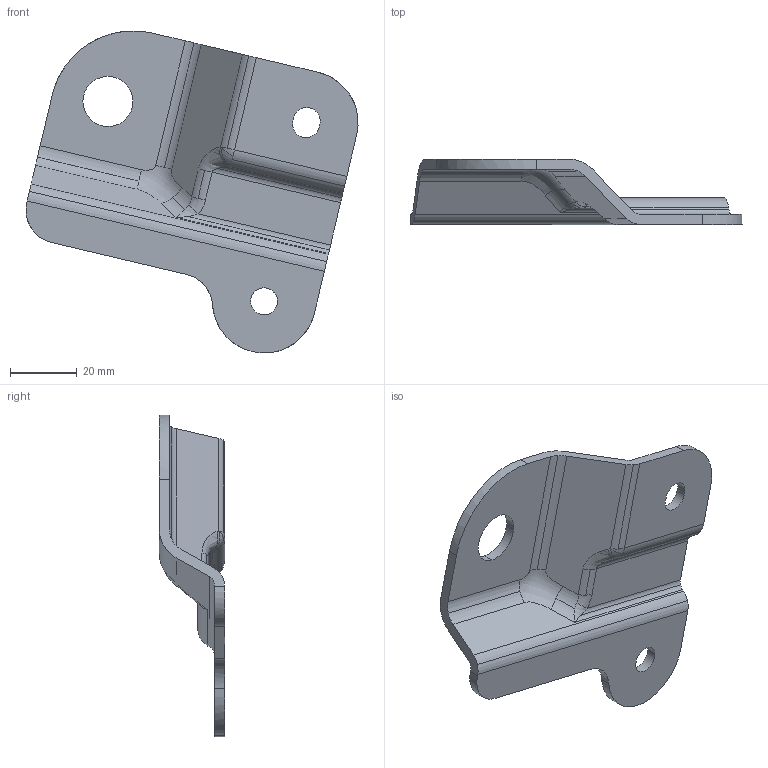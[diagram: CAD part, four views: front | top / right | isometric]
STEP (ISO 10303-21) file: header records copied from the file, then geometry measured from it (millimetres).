
FILE_DESCRIPTION(('CATIA V5 STEP Exchange'),'2;1');
FILE_NAME('C:\Users\Administrator\Desktop\SHT0014367.stp','2022-03-17T03:11:29+00:00',('none'),('none'),'CATIA Version 5 Release 20 GA (IN-10)','CATIA V5 STEP AP203','none');
FILE_SCHEMA(('CONFIG_CONTROL_DESIGN'));
Length unit declared in the file: millimetre
Products named in the file (1): SHT0014179
Bounding box: 99.47 x 19.5 x 96.45 mm (x, y, z)
Volume: 20920.9 mm3; surface area: 15251.7 mm2
Topology: 1 solids, 1 shells, 73 faces, 201 edges, 128 vertices
Faces by surface type: cylinder 42, plane 20, bspline 8, sphere 3
Entity records: 6039 total; most frequent: CARTESIAN_POINT 4337, ORIENTED_EDGE 392, DIRECTION 251, EDGE_CURVE 196, VERTEX_POINT 125, VECTOR 95, LINE 95, AXIS2_PLACEMENT_3D 94
